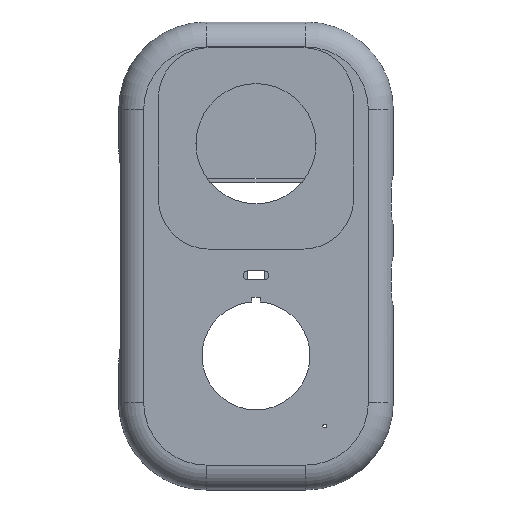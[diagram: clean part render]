
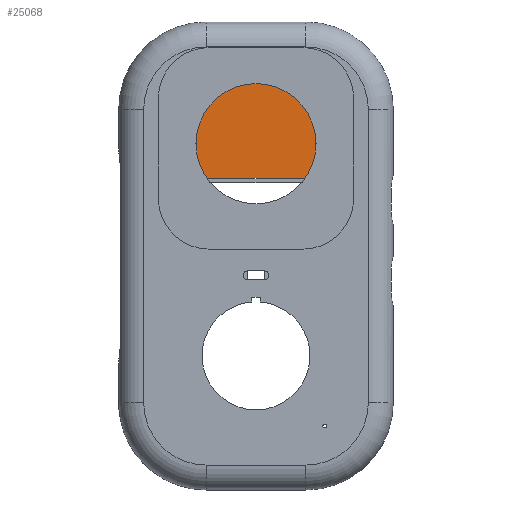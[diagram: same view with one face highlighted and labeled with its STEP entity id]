
A CAD part, front view. The second image highlights one B-rep face of the part: STEP entity #25068.
In plain terms, the highlighted planar face has unit normal (0, -1, 0).
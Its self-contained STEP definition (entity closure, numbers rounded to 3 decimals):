
#7032 = PLANE('',#7033);
#7033 = AXIS2_PLACEMENT_3D('',#7034,#7035,#7036);
#7034 = CARTESIAN_POINT('',(-30.5,-11.7,45.));
#7035 = DIRECTION('',(1.,0.,0.));
#7036 = DIRECTION('',(0.,0.,1.));
#8666 = PLANE('',#8667);
#8667 = AXIS2_PLACEMENT_3D('',#8668,#8669,#8670);
#8668 = CARTESIAN_POINT('',(30.5,-11.7,30.5));
#8669 = DIRECTION('',(1.,0.,0.));
#8670 = DIRECTION('',(0.,0.,1.));
#18585 = VERTEX_POINT('',#18586);
#18586 = CARTESIAN_POINT('',(-30.5,-4.7,57.));
#18623 = PLANE('',#18624);
#18624 = AXIS2_PLACEMENT_3D('',#18625,#18626,#18627);
#18625 = CARTESIAN_POINT('',(-30.5,-4.7,25.));
#18626 = DIRECTION('',(1.,0.,0.));
#18627 = DIRECTION('',(0.,0.,1.));
#18741 = EDGE_CURVE('',#18742,#18585,#18744,.T.);
#18742 = VERTEX_POINT('',#18743);
#18743 = CARTESIAN_POINT('',(-30.5,-4.7,45.));
#18744 = SURFACE_CURVE('',#18745,(#18749,#18756),.PCURVE_S1.);
#18745 = LINE('',#18746,#18747);
#18746 = CARTESIAN_POINT('',(-30.5,-4.7,25.));
#18747 = VECTOR('',#18748,1.);
#18748 = DIRECTION('',(0.,0.,1.));
#18749 = PCURVE('',#7032,#18750);
#18750 = DEFINITIONAL_REPRESENTATION('',(#18751),#18755);
#18751 = LINE('',#18752,#18753);
#18752 = CARTESIAN_POINT('',(-20.,-7.));
#18753 = VECTOR('',#18754,1.);
#18754 = DIRECTION('',(1.,0.));
#18755 = ( GEOMETRIC_REPRESENTATION_CONTEXT(2) 
PARAMETRIC_REPRESENTATION_CONTEXT() REPRESENTATION_CONTEXT('2D SPACE',''
  ) );
#18756 = PCURVE('',#18757,#18762);
#18757 = PLANE('',#18758);
#18758 = AXIS2_PLACEMENT_3D('',#18759,#18760,#18761);
#18759 = CARTESIAN_POINT('',(-30.5,-4.7,25.));
#18760 = DIRECTION('',(0.,1.,0.));
#18761 = DIRECTION('',(0.,-0.,1.));
#18762 = DEFINITIONAL_REPRESENTATION('',(#18763),#18767);
#18763 = LINE('',#18764,#18765);
#18764 = CARTESIAN_POINT('',(0.,0.));
#18765 = VECTOR('',#18766,1.);
#18766 = DIRECTION('',(1.,0.));
#18767 = ( GEOMETRIC_REPRESENTATION_CONTEXT(2) 
PARAMETRIC_REPRESENTATION_CONTEXT() REPRESENTATION_CONTEXT('2D SPACE',''
  ) );
#18814 = PLANE('',#18815);
#18815 = AXIS2_PLACEMENT_3D('',#18816,#18817,#18818);
#18816 = CARTESIAN_POINT('',(-30.5,-4.7,25.));
#18817 = DIRECTION('',(1.,0.,0.));
#18818 = DIRECTION('',(0.,0.,1.));
#22274 = VERTEX_POINT('',#22275);
#22275 = CARTESIAN_POINT('',(30.5,-4.7,57.));
#22291 = PLANE('',#22292);
#22292 = AXIS2_PLACEMENT_3D('',#22293,#22294,#22295);
#22293 = CARTESIAN_POINT('',(30.5,-4.7,25.));
#22294 = DIRECTION('',(1.,0.,0.));
#22295 = DIRECTION('',(0.,0.,1.));
#22405 = EDGE_CURVE('',#22406,#22274,#22408,.T.);
#22406 = VERTEX_POINT('',#22407);
#22407 = CARTESIAN_POINT('',(30.5,-4.7,30.5));
#22408 = SURFACE_CURVE('',#22409,(#22413,#22420),.PCURVE_S1.);
#22409 = LINE('',#22410,#22411);
#22410 = CARTESIAN_POINT('',(30.5,-4.7,25.));
#22411 = VECTOR('',#22412,1.);
#22412 = DIRECTION('',(0.,0.,1.));
#22413 = PCURVE('',#8666,#22414);
#22414 = DEFINITIONAL_REPRESENTATION('',(#22415),#22419);
#22415 = LINE('',#22416,#22417);
#22416 = CARTESIAN_POINT('',(-5.5,-7.));
#22417 = VECTOR('',#22418,1.);
#22418 = DIRECTION('',(1.,0.));
#22419 = ( GEOMETRIC_REPRESENTATION_CONTEXT(2) 
PARAMETRIC_REPRESENTATION_CONTEXT() REPRESENTATION_CONTEXT('2D SPACE',''
  ) );
#22420 = PCURVE('',#18757,#22421);
#22421 = DEFINITIONAL_REPRESENTATION('',(#22422),#22426);
#22422 = LINE('',#22423,#22424);
#22423 = CARTESIAN_POINT('',(0.,61.));
#22424 = VECTOR('',#22425,1.);
#22425 = DIRECTION('',(1.,0.));
#22426 = ( GEOMETRIC_REPRESENTATION_CONTEXT(2) 
PARAMETRIC_REPRESENTATION_CONTEXT() REPRESENTATION_CONTEXT('2D SPACE',''
  ) );
#22519 = PLANE('',#22520);
#22520 = AXIS2_PLACEMENT_3D('',#22521,#22522,#22523);
#22521 = CARTESIAN_POINT('',(30.5,-4.7,25.));
#22522 = DIRECTION('',(1.,0.,0.));
#22523 = DIRECTION('',(0.,0.,1.));
#24937 = EDGE_CURVE('',#18585,#24938,#24940,.T.);
#24938 = VERTEX_POINT('',#24939);
#24939 = CARTESIAN_POINT('',(-30.5,-4.7,61.));
#24940 = SURFACE_CURVE('',#24941,(#24945,#24952),.PCURVE_S1.);
#24941 = LINE('',#24942,#24943);
#24942 = CARTESIAN_POINT('',(-30.5,-4.7,25.));
#24943 = VECTOR('',#24944,1.);
#24944 = DIRECTION('',(0.,0.,1.));
#24945 = PCURVE('',#18623,#24946);
#24946 = DEFINITIONAL_REPRESENTATION('',(#24947),#24951);
#24947 = LINE('',#24948,#24949);
#24948 = CARTESIAN_POINT('',(0.,0.));
#24949 = VECTOR('',#24950,1.);
#24950 = DIRECTION('',(1.,0.));
#24951 = ( GEOMETRIC_REPRESENTATION_CONTEXT(2) 
PARAMETRIC_REPRESENTATION_CONTEXT() REPRESENTATION_CONTEXT('2D SPACE',''
  ) );
#24952 = PCURVE('',#18757,#24953);
#24953 = DEFINITIONAL_REPRESENTATION('',(#24954),#24958);
#24954 = LINE('',#24955,#24956);
#24955 = CARTESIAN_POINT('',(0.,0.));
#24956 = VECTOR('',#24957,1.);
#24957 = DIRECTION('',(1.,0.));
#24958 = ( GEOMETRIC_REPRESENTATION_CONTEXT(2) 
PARAMETRIC_REPRESENTATION_CONTEXT() REPRESENTATION_CONTEXT('2D SPACE',''
  ) );
#25003 = PLANE('',#25004);
#25004 = AXIS2_PLACEMENT_3D('',#25005,#25006,#25007);
#25005 = CARTESIAN_POINT('',(-30.5,-4.7,61.));
#25006 = DIRECTION('',(0.,0.,1.));
#25007 = DIRECTION('',(1.,0.,-0.));
#25068 = ADVANCED_FACE('',(#25069),#18757,.F.);
#25069 = FACE_BOUND('',#25070,.F.);
#25070 = EDGE_LOOP('',(#25071,#25101,#25122,#25123,#25124,#25147,#25168,
    #25169));
#25071 = ORIENTED_EDGE('',*,*,#25072,.F.);
#25072 = EDGE_CURVE('',#25073,#25075,#25077,.T.);
#25073 = VERTEX_POINT('',#25074);
#25074 = CARTESIAN_POINT('',(-30.5,-4.7,25.));
#25075 = VERTEX_POINT('',#25076);
#25076 = CARTESIAN_POINT('',(30.5,-4.7,25.));
#25077 = SURFACE_CURVE('',#25078,(#25082,#25089),.PCURVE_S1.);
#25078 = LINE('',#25079,#25080);
#25079 = CARTESIAN_POINT('',(-30.5,-4.7,25.));
#25080 = VECTOR('',#25081,1.);
#25081 = DIRECTION('',(1.,0.,0.));
#25082 = PCURVE('',#18757,#25083);
#25083 = DEFINITIONAL_REPRESENTATION('',(#25084),#25088);
#25084 = LINE('',#25085,#25086);
#25085 = CARTESIAN_POINT('',(0.,0.));
#25086 = VECTOR('',#25087,1.);
#25087 = DIRECTION('',(0.,1.));
#25088 = ( GEOMETRIC_REPRESENTATION_CONTEXT(2) 
PARAMETRIC_REPRESENTATION_CONTEXT() REPRESENTATION_CONTEXT('2D SPACE',''
  ) );
#25089 = PCURVE('',#25090,#25095);
#25090 = PLANE('',#25091);
#25091 = AXIS2_PLACEMENT_3D('',#25092,#25093,#25094);
#25092 = CARTESIAN_POINT('',(-30.5,-4.7,25.));
#25093 = DIRECTION('',(0.,0.,1.));
#25094 = DIRECTION('',(1.,0.,-0.));
#25095 = DEFINITIONAL_REPRESENTATION('',(#25096),#25100);
#25096 = LINE('',#25097,#25098);
#25097 = CARTESIAN_POINT('',(0.,0.));
#25098 = VECTOR('',#25099,1.);
#25099 = DIRECTION('',(1.,0.));
#25100 = ( GEOMETRIC_REPRESENTATION_CONTEXT(2) 
PARAMETRIC_REPRESENTATION_CONTEXT() REPRESENTATION_CONTEXT('2D SPACE',''
  ) );
#25101 = ORIENTED_EDGE('',*,*,#25102,.T.);
#25102 = EDGE_CURVE('',#25073,#18742,#25103,.T.);
#25103 = SURFACE_CURVE('',#25104,(#25108,#25115),.PCURVE_S1.);
#25104 = LINE('',#25105,#25106);
#25105 = CARTESIAN_POINT('',(-30.5,-4.7,25.));
#25106 = VECTOR('',#25107,1.);
#25107 = DIRECTION('',(0.,0.,1.));
#25108 = PCURVE('',#18757,#25109);
#25109 = DEFINITIONAL_REPRESENTATION('',(#25110),#25114);
#25110 = LINE('',#25111,#25112);
#25111 = CARTESIAN_POINT('',(0.,0.));
#25112 = VECTOR('',#25113,1.);
#25113 = DIRECTION('',(1.,0.));
#25114 = ( GEOMETRIC_REPRESENTATION_CONTEXT(2) 
PARAMETRIC_REPRESENTATION_CONTEXT() REPRESENTATION_CONTEXT('2D SPACE',''
  ) );
#25115 = PCURVE('',#18814,#25116);
#25116 = DEFINITIONAL_REPRESENTATION('',(#25117),#25121);
#25117 = LINE('',#25118,#25119);
#25118 = CARTESIAN_POINT('',(0.,0.));
#25119 = VECTOR('',#25120,1.);
#25120 = DIRECTION('',(1.,0.));
#25121 = ( GEOMETRIC_REPRESENTATION_CONTEXT(2) 
PARAMETRIC_REPRESENTATION_CONTEXT() REPRESENTATION_CONTEXT('2D SPACE',''
  ) );
#25122 = ORIENTED_EDGE('',*,*,#18741,.T.);
#25123 = ORIENTED_EDGE('',*,*,#24937,.T.);
#25124 = ORIENTED_EDGE('',*,*,#25125,.T.);
#25125 = EDGE_CURVE('',#24938,#25126,#25128,.T.);
#25126 = VERTEX_POINT('',#25127);
#25127 = CARTESIAN_POINT('',(30.5,-4.7,61.));
#25128 = SURFACE_CURVE('',#25129,(#25133,#25140),.PCURVE_S1.);
#25129 = LINE('',#25130,#25131);
#25130 = CARTESIAN_POINT('',(-30.5,-4.7,61.));
#25131 = VECTOR('',#25132,1.);
#25132 = DIRECTION('',(1.,0.,0.));
#25133 = PCURVE('',#18757,#25134);
#25134 = DEFINITIONAL_REPRESENTATION('',(#25135),#25139);
#25135 = LINE('',#25136,#25137);
#25136 = CARTESIAN_POINT('',(36.,0.));
#25137 = VECTOR('',#25138,1.);
#25138 = DIRECTION('',(0.,1.));
#25139 = ( GEOMETRIC_REPRESENTATION_CONTEXT(2) 
PARAMETRIC_REPRESENTATION_CONTEXT() REPRESENTATION_CONTEXT('2D SPACE',''
  ) );
#25140 = PCURVE('',#25003,#25141);
#25141 = DEFINITIONAL_REPRESENTATION('',(#25142),#25146);
#25142 = LINE('',#25143,#25144);
#25143 = CARTESIAN_POINT('',(0.,0.));
#25144 = VECTOR('',#25145,1.);
#25145 = DIRECTION('',(1.,0.));
#25146 = ( GEOMETRIC_REPRESENTATION_CONTEXT(2) 
PARAMETRIC_REPRESENTATION_CONTEXT() REPRESENTATION_CONTEXT('2D SPACE',''
  ) );
#25147 = ORIENTED_EDGE('',*,*,#25148,.F.);
#25148 = EDGE_CURVE('',#22274,#25126,#25149,.T.);
#25149 = SURFACE_CURVE('',#25150,(#25154,#25161),.PCURVE_S1.);
#25150 = LINE('',#25151,#25152);
#25151 = CARTESIAN_POINT('',(30.5,-4.7,25.));
#25152 = VECTOR('',#25153,1.);
#25153 = DIRECTION('',(0.,0.,1.));
#25154 = PCURVE('',#18757,#25155);
#25155 = DEFINITIONAL_REPRESENTATION('',(#25156),#25160);
#25156 = LINE('',#25157,#25158);
#25157 = CARTESIAN_POINT('',(0.,61.));
#25158 = VECTOR('',#25159,1.);
#25159 = DIRECTION('',(1.,0.));
#25160 = ( GEOMETRIC_REPRESENTATION_CONTEXT(2) 
PARAMETRIC_REPRESENTATION_CONTEXT() REPRESENTATION_CONTEXT('2D SPACE',''
  ) );
#25161 = PCURVE('',#22291,#25162);
#25162 = DEFINITIONAL_REPRESENTATION('',(#25163),#25167);
#25163 = LINE('',#25164,#25165);
#25164 = CARTESIAN_POINT('',(0.,0.));
#25165 = VECTOR('',#25166,1.);
#25166 = DIRECTION('',(1.,0.));
#25167 = ( GEOMETRIC_REPRESENTATION_CONTEXT(2) 
PARAMETRIC_REPRESENTATION_CONTEXT() REPRESENTATION_CONTEXT('2D SPACE',''
  ) );
#25168 = ORIENTED_EDGE('',*,*,#22405,.F.);
#25169 = ORIENTED_EDGE('',*,*,#25170,.F.);
#25170 = EDGE_CURVE('',#25075,#22406,#25171,.T.);
#25171 = SURFACE_CURVE('',#25172,(#25176,#25183),.PCURVE_S1.);
#25172 = LINE('',#25173,#25174);
#25173 = CARTESIAN_POINT('',(30.5,-4.7,25.));
#25174 = VECTOR('',#25175,1.);
#25175 = DIRECTION('',(0.,0.,1.));
#25176 = PCURVE('',#18757,#25177);
#25177 = DEFINITIONAL_REPRESENTATION('',(#25178),#25182);
#25178 = LINE('',#25179,#25180);
#25179 = CARTESIAN_POINT('',(0.,61.));
#25180 = VECTOR('',#25181,1.);
#25181 = DIRECTION('',(1.,0.));
#25182 = ( GEOMETRIC_REPRESENTATION_CONTEXT(2) 
PARAMETRIC_REPRESENTATION_CONTEXT() REPRESENTATION_CONTEXT('2D SPACE',''
  ) );
#25183 = PCURVE('',#22519,#25184);
#25184 = DEFINITIONAL_REPRESENTATION('',(#25185),#25189);
#25185 = LINE('',#25186,#25187);
#25186 = CARTESIAN_POINT('',(0.,0.));
#25187 = VECTOR('',#25188,1.);
#25188 = DIRECTION('',(1.,0.));
#25189 = ( GEOMETRIC_REPRESENTATION_CONTEXT(2) 
PARAMETRIC_REPRESENTATION_CONTEXT() REPRESENTATION_CONTEXT('2D SPACE',''
  ) );
